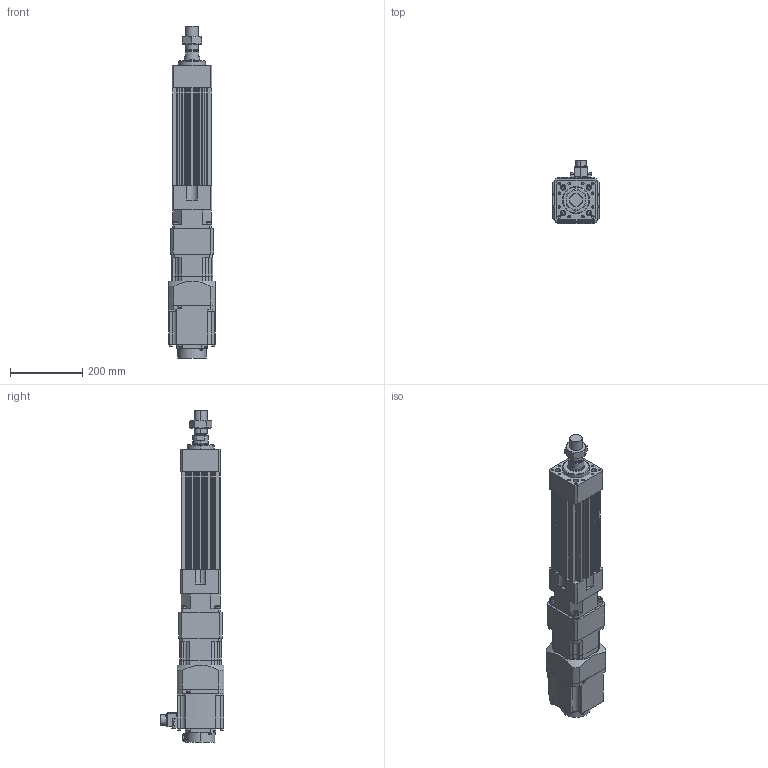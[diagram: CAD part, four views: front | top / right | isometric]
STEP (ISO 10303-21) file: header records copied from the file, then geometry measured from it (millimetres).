
FILE_DESCRIPTION (( 'STEP AP203' ), '1' );
FILE_NAME ('HES110NS(HS)-S100-W015G00-M.STEP', '2023-01-27T09:59:45', ( 'tms' ), ( '' ), 'SwSTEP 2.0', 'SolidWorks 2013', '' );
FILE_SCHEMA (( 'CONFIG_CONTROL_DESIGN' ));
Length unit declared in the file: millimetre
Products named in the file (8): AB1151; HES110 ROD M ST100; HES110-S100-G120; M36X1.5P; P0401400706; HES110NS(HS)-S100-W015G00-M; AB115-003[HG-SR152]; HG-SR152
Assembly tree (7 placements, depth 3):
  HES110NS(HS)-S100-W015G00-M
    HES110-S100-G120
    HES110 ROD M ST100
    M36X1.5P
    AB115-003[HG-SR152]
      AB1151
      P0401400706
    HG-SR152
Bounding box: 130 x 177.49 x 921.5 mm (x, y, z)
Volume: 5912788.7 mm3; surface area: 780960.6 mm2
Topology: 4 solids, 15 shells, 1202 faces, 3026 edges, 1951 vertices
Faces by surface type: plane 551, cylinder 537, cone 102, bspline 8, torus 4
Entity records: 37654 total; most frequent: CARTESIAN_POINT 7134, DIRECTION 6533, ORIENTED_EDGE 5960, EDGE_CURVE 2990, AXIS2_PLACEMENT_3D 2410, VERTEX_POINT 1951, VECTOR 1713, LINE 1713
